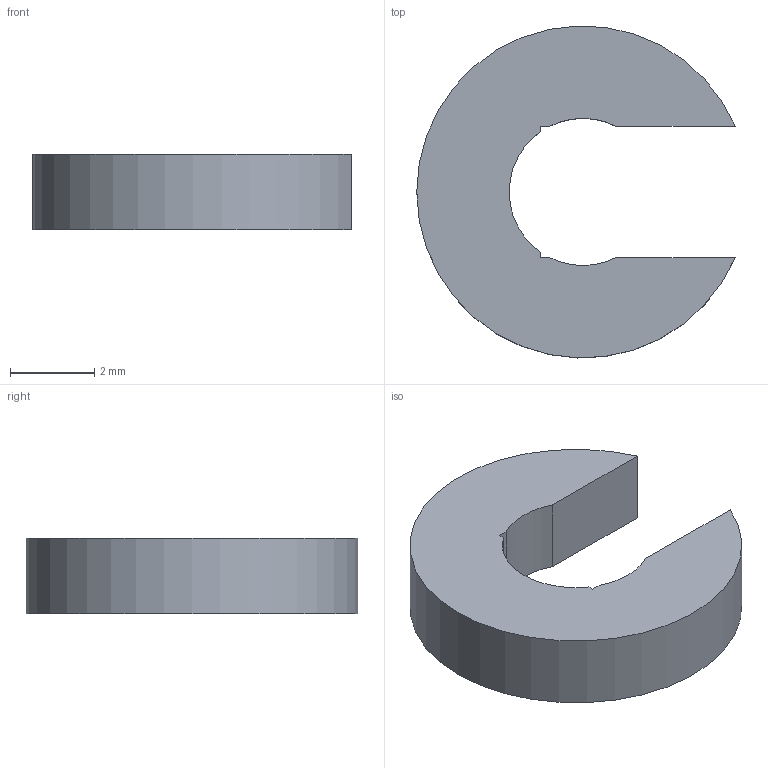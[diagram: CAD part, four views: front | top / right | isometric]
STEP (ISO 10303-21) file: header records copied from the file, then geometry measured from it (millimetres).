
FILE_DESCRIPTION(('Open CASCADE Model'),'2;1');
FILE_NAME('SCZ-CLIP4','2026-11-15T22:39:12',('Author'),('Open CASCADE'), 'Open CASCADE STEP processor 8.0','build123d','Unknown');
FILE_SCHEMA(('AUTOMOTIVE_DESIGN { 1 0 10303 214 1 1 1 1 }'));
Length unit declared in the file: millimetre
Products named in the file (1): SCZ-CLIP4
Bounding box: 7.58 x 7.9 x 1.8 mm (x, y, z)
Volume: 57.5 mm3; surface area: 126.2 mm2
Topology: 1 solids, 1 shells, 12 faces, 30 edges, 20 vertices
Faces by surface type: plane 8, cylinder 4
Entity records: 722 total; most frequent: CARTESIAN_POINT 163, DIRECTION 84, ORIENTED_EDGE 60, PCURVE 60, DEFINITIONAL_REPRESENTATION 60, B_SPLINE_CURVE_WITH_KNOTS 40, LINE 34, VECTOR 34
